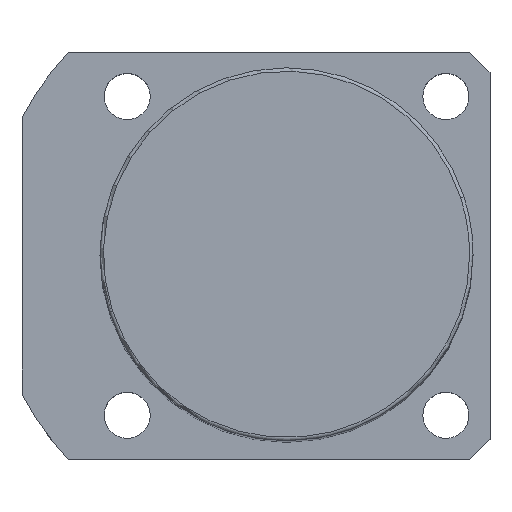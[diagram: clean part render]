
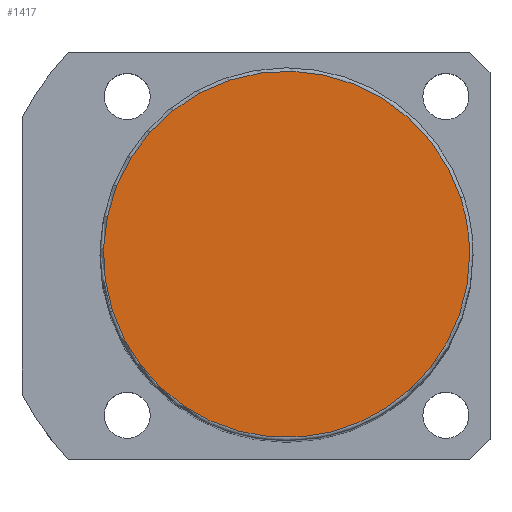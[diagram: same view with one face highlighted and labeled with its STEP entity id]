
A CAD part, top view. The second image highlights one B-rep face of the part: STEP entity #1417.
In plain terms, the highlighted planar face has unit normal (0, 0, 1).
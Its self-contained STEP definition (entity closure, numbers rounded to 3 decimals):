
#1350=CARTESIAN_POINT('',(25.679,8.343,141.0));
#1351=VERTEX_POINT('',#1350);
#1369=CARTESIAN_POINT('',(-25.679,-8.343,141.0));
#1370=VERTEX_POINT('',#1369);
#1378=CARTESIAN_POINT('',(0.0,0.0,141.0));
#1379=DIRECTION('',(0.0,0.0,1.0));
#1380=DIRECTION('',(1.0,0.0,0.0));
#1381=AXIS2_PLACEMENT_3D('',#1378,#1379,#1380);
#1382=CIRCLE('',#1381,27.0);
#1383=EDGE_CURVE('no 1894',#1351,#1370,#1382,.T.);
#1393=CARTESIAN_POINT('',(27.0,0.0,141.0));
#1394=VERTEX_POINT('',#1393);
#1395=CARTESIAN_POINT('',(0.0,0.0,141.0));
#1396=DIRECTION('',(0.0,0.0,1.0));
#1397=DIRECTION('',(1.0,0.0,0.0));
#1398=AXIS2_PLACEMENT_3D('',#1395,#1396,#1397);
#1399=CIRCLE('',#1398,27.0);
#1400=EDGE_CURVE('no 1903',#1394,#1351,#1399,.T.);
#1401=ORIENTED_EDGE('',*,*,#1400,.T.);
#1402=ORIENTED_EDGE('',*,*,#1383,.T.);
#1403=CARTESIAN_POINT('',(0.0,0.0,141.0));
#1404=DIRECTION('',(0.0,0.0,1.0));
#1405=DIRECTION('',(1.0,0.0,0.0));
#1406=AXIS2_PLACEMENT_3D('',#1403,#1404,#1405);
#1407=CIRCLE('',#1406,27.0);
#1408=EDGE_CURVE('no 1909',#1370,#1394,#1407,.T.);
#1409=ORIENTED_EDGE('',*,*,#1408,.T.);
#1410=EDGE_LOOP('',(#1401,#1402,#1409));
#1411=FACE_OUTER_BOUND('',#1410,.T.);
#1412=CARTESIAN_POINT('',(0.0,0.0,141.0));
#1413=DIRECTION('',(0.0,0.0,1.0));
#1414=DIRECTION('',(1.0,0.0,0.0));
#1415=AXIS2_PLACEMENT_3D('',#1412,#1413,#1414);
#1416=PLANE('',#1415);
#1417=ADVANCED_FACE('no 1896',(#1411),#1416,.T.);
